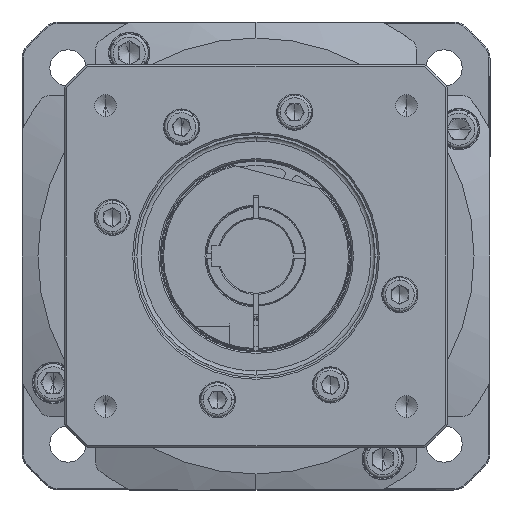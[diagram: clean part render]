
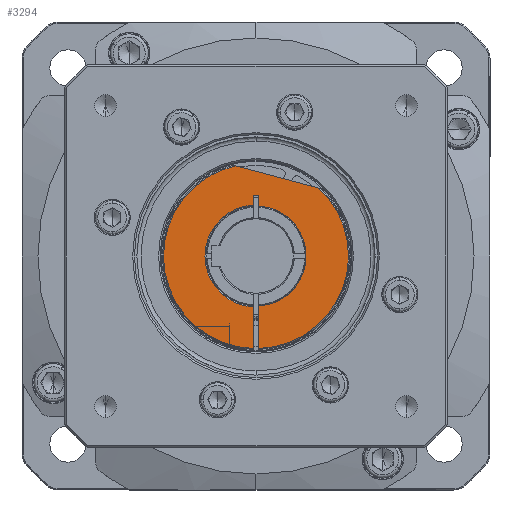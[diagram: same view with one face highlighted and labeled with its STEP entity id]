
A CAD part, left-side view. The second image highlights one B-rep face of the part: STEP entity #3294.
In plain terms, the highlighted planar face has unit normal (-1, 0, 0).
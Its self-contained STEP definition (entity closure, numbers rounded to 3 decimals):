
#309 = DIRECTION ( 'NONE',  ( 1., 0., 0. ) ) ;
#1013 = VERTEX_POINT ( 'NONE', #4035 ) ;
#1273 = ORIENTED_EDGE ( 'NONE', *, *, #24802, .T. ) ;
#2039 = DIRECTION ( 'NONE',  ( 0., 0., -1. ) ) ;
#2330 = LINE ( 'NONE', #11770, #36294 ) ;
#2660 = ORIENTED_EDGE ( 'NONE', *, *, #35028, .T. ) ;
#3294 = ADVANCED_FACE ( 'NONE', ( #38728 ), #26575, .F. ) ;
#3603 = AXIS2_PLACEMENT_3D ( 'NONE', #28851, #8562, #18482 ) ;
#3912 = VECTOR ( 'NONE', #31057, 1000. ) ;
#4035 = CARTESIAN_POINT ( 'NONE',  ( 300., 9.594, 42.429 ) ) ;
#4452 = ORIENTED_EDGE ( 'NONE', *, *, #17218, .T. ) ;
#5383 = DIRECTION ( 'NONE',  ( 0., 0., -1. ) ) ;
#5885 = CIRCLE ( 'NONE', #28911, 23.5 ) ;
#6238 = EDGE_CURVE ( 'NONE', #11782, #37869, #17780, .T. ) ;
#7889 = VERTEX_POINT ( 'NONE', #26305 ) ;
#8460 = VECTOR ( 'NONE', #17801, 1000. ) ;
#8562 = DIRECTION ( 'NONE',  ( -1., 0., 0. ) ) ;
#8661 = ORIENTED_EDGE ( 'NONE', *, *, #35177, .F. ) ;
#9556 = DIRECTION ( 'NONE',  ( 0., 0., 1. ) ) ;
#9685 = CARTESIAN_POINT ( 'NONE',  ( 300., 0., 0. ) ) ;
#10603 = CARTESIAN_POINT ( 'NONE',  ( 300., 1.25, -28.405 ) ) ;
#11770 = CARTESIAN_POINT ( 'NONE',  ( 300., -1.25, 28.405 ) ) ;
#11782 = VERTEX_POINT ( 'NONE', #24806 ) ;
#12104 = CARTESIAN_POINT ( 'NONE',  ( 300., 1.25, 28.5 ) ) ;
#13200 = LINE ( 'NONE', #38080, #8460 ) ;
#13377 = DIRECTION ( 'NONE',  ( 1., 0., 0. ) ) ;
#14007 = LINE ( 'NONE', #10603, #3912 ) ;
#14040 = CARTESIAN_POINT ( 'NONE',  ( 300., 1.25, 23.967 ) ) ;
#14537 = CARTESIAN_POINT ( 'NONE',  ( 300., 1.25, 28.405 ) ) ;
#15596 = VECTOR ( 'NONE', #34957, 1000. ) ;
#16382 = VERTEX_POINT ( 'NONE', #14040 ) ;
#16739 = VECTOR ( 'NONE', #32108, 1000. ) ;
#17218 = EDGE_CURVE ( 'NONE', #16382, #11782, #34558, .T. ) ;
#17681 = CARTESIAN_POINT ( 'NONE',  ( 300., -1.25, -43.482 ) ) ;
#17780 = LINE ( 'NONE', #12104, #16739 ) ;
#17801 = DIRECTION ( 'NONE',  ( 0., -0.966, -0.259 ) ) ;
#18057 = EDGE_CURVE ( 'NONE', #35234, #1013, #39574, .T. ) ;
#18060 = AXIS2_PLACEMENT_3D ( 'NONE', #42702, #22380, #2039 ) ;
#18482 = DIRECTION ( 'NONE',  ( 0., 0., 1. ) ) ;
#19722 = CARTESIAN_POINT ( 'NONE',  ( 300., -1.25, -23.467 ) ) ;
#20380 = ORIENTED_EDGE ( 'NONE', *, *, #33262, .F. ) ;
#20523 = DIRECTION ( 'NONE',  ( 0., 0., -1. ) ) ;
#21526 = ORIENTED_EDGE ( 'NONE', *, *, #42821, .F. ) ;
#21537 = CIRCLE ( 'NONE', #18060, 43.5 ) ;
#22380 = DIRECTION ( 'NONE',  ( 1., 0., 0. ) ) ;
#22463 = LINE ( 'NONE', #28615, #15596 ) ;
#24370 = EDGE_CURVE ( 'NONE', #37869, #42022, #2330, .T. ) ;
#24598 = EDGE_LOOP ( 'NONE', ( #21526, #31458, #2660, #8661, #4452, #42581, #30952, #30954, #1273, #20380 ) ) ;
#24802 = EDGE_CURVE ( 'NONE', #39905, #26582, #22463, .T. ) ;
#24806 = CARTESIAN_POINT ( 'NONE',  ( 300., 1.25, 28.5 ) ) ;
#25148 = CARTESIAN_POINT ( 'NONE',  ( 300., -29.523, 31.947 ) ) ;
#26305 = CARTESIAN_POINT ( 'NONE',  ( 300., 1.25, -23.967 ) ) ;
#26575 = PLANE ( 'NONE',  #42810 ) ;
#26582 = VERTEX_POINT ( 'NONE', #17681 ) ;
#27470 = VECTOR ( 'NONE', #31727, 1000. ) ;
#28615 = CARTESIAN_POINT ( 'NONE',  ( 300., -1.25, -28.405 ) ) ;
#28851 = CARTESIAN_POINT ( 'NONE',  ( 300., 0., 0. ) ) ;
#28911 = AXIS2_PLACEMENT_3D ( 'NONE', #30008, #36807, #9556 ) ;
#28972 = CARTESIAN_POINT ( 'NONE',  ( 300., -1.25, 28.5 ) ) ;
#30008 = CARTESIAN_POINT ( 'NONE',  ( 300., 0., 0. ) ) ;
#30273 = DIRECTION ( 'NONE',  ( 0., 0., -1. ) ) ;
#30952 = ORIENTED_EDGE ( 'NONE', *, *, #24370, .T. ) ;
#30954 = ORIENTED_EDGE ( 'NONE', *, *, #41678, .F. ) ;
#31057 = DIRECTION ( 'NONE',  ( 0., 0., 1. ) ) ;
#31185 = AXIS2_PLACEMENT_3D ( 'NONE', #33843, #309, #20523 ) ;
#31458 = ORIENTED_EDGE ( 'NONE', *, *, #18057, .F. ) ;
#31727 = DIRECTION ( 'NONE',  ( 0., 0., 1. ) ) ;
#32108 = DIRECTION ( 'NONE',  ( 0., -1., 0. ) ) ;
#33262 = EDGE_CURVE ( 'NONE', #43448, #26582, #21537, .T. ) ;
#33843 = CARTESIAN_POINT ( 'NONE',  ( 300., 0., 0. ) ) ;
#34558 = LINE ( 'NONE', #14537, #27470 ) ;
#34957 = DIRECTION ( 'NONE',  ( 0., 0., -1. ) ) ;
#35028 = EDGE_CURVE ( 'NONE', #35234, #7889, #14007, .T. ) ;
#35177 = EDGE_CURVE ( 'NONE', #16382, #7889, #41573, .T. ) ;
#35234 = VERTEX_POINT ( 'NONE', #42633 ) ;
#35428 = CARTESIAN_POINT ( 'NONE',  ( 300., -1.25, 23.467 ) ) ;
#36294 = VECTOR ( 'NONE', #5383, 1000. ) ;
#36807 = DIRECTION ( 'NONE',  ( -1., 0., 0. ) ) ;
#37869 = VERTEX_POINT ( 'NONE', #28972 ) ;
#38080 = CARTESIAN_POINT ( 'NONE',  ( 300., 9.594, 42.429 ) ) ;
#38728 = FACE_OUTER_BOUND ( 'NONE', #24598, .T. ) ;
#39574 = CIRCLE ( 'NONE', #31185, 43.5 ) ;
#39905 = VERTEX_POINT ( 'NONE', #19722 ) ;
#41573 = CIRCLE ( 'NONE', #3603, 24. ) ;
#41678 = EDGE_CURVE ( 'NONE', #39905, #42022, #5885, .T. ) ;
#42022 = VERTEX_POINT ( 'NONE', #35428 ) ;
#42581 = ORIENTED_EDGE ( 'NONE', *, *, #6238, .T. ) ;
#42633 = CARTESIAN_POINT ( 'NONE',  ( 300., 1.25, -43.482 ) ) ;
#42702 = CARTESIAN_POINT ( 'NONE',  ( 300., 0., 0. ) ) ;
#42810 = AXIS2_PLACEMENT_3D ( 'NONE', #9685, #13377, #30273 ) ;
#42821 = EDGE_CURVE ( 'NONE', #1013, #43448, #13200, .T. ) ;
#43448 = VERTEX_POINT ( 'NONE', #25148 ) ;
